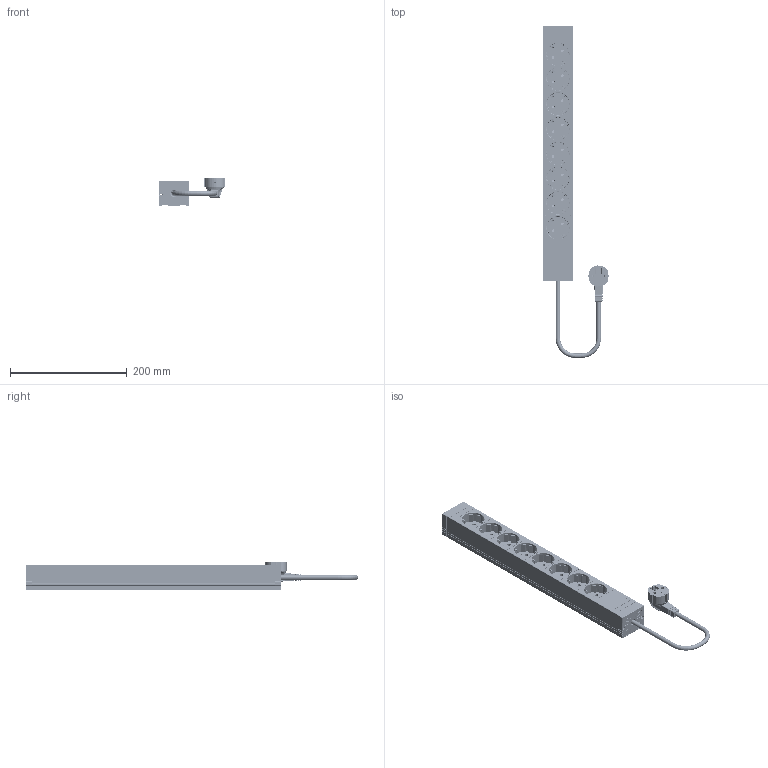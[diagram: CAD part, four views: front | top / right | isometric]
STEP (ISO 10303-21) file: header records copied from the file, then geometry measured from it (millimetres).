
FILE_DESCRIPTION(/* description */ (''),/* implementation_level */ '2;1');
FILE_NAME(/* name */ '420.0019_Drawing_REV00.stp',/* time_stamp */ '2026-09-01T16:13:09+03:00',/* author */ ('Bogdan.Lupancu'),/* organization */ (''),/* preprocessor_version */ 'ST-DEVELOPER v20',/* originating_system */ 'Autodesk Inventor 2025',/* authorisation */ '');
FILE_SCHEMA (('AUTOMOTIVE_DESIGN { 1 0 10303 214 3 1 1 }'));
Products named in the file (1): BG_420.0019
Bounding box: 114.5 x 569.6 x 48.73 mm (x, y, z)
Volume: 357527.4 mm3; surface area: 449858.2 mm2
Topology: 3 solids, 91 shells, 19477 faces, 55405 edges, 35776 vertices
Faces by surface type: plane 13958, cylinder 2453, bspline 2435, cone 235, torus 222, sphere 174
Full cylindrical faces by diameter (mm): 1 x16, 1.3 x16, 1.4 x16, 1.6 x2, 2 x1, 2.257 x8, 2.4 x28, 2.43 x8, 2.5 x48, 2.8 x8, 2.9 x32, 3 x24, 3.1 x16, 3.2 x33, 3.6 x16, 4 x26, 4.166 x8, 4.34 x8, 4.8 x2, 5.5 x16, 5.6 x16, 5.7 x4, 5.8 x1, 6 x16, 6.3 x2, 7.8 x3, 8.5 x16, 8.8 x2, 11 x2, 39 x8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
Entity records: 760410 total; most frequent: CARTESIAN_POINT 246157, ORIENTED_EDGE 110750, DIRECTION 90503, EDGE_CURVE 55375, LINE 42613, VECTOR 42613, VERTEX_POINT 35759, AXIS2_PLACEMENT_3D 23945
